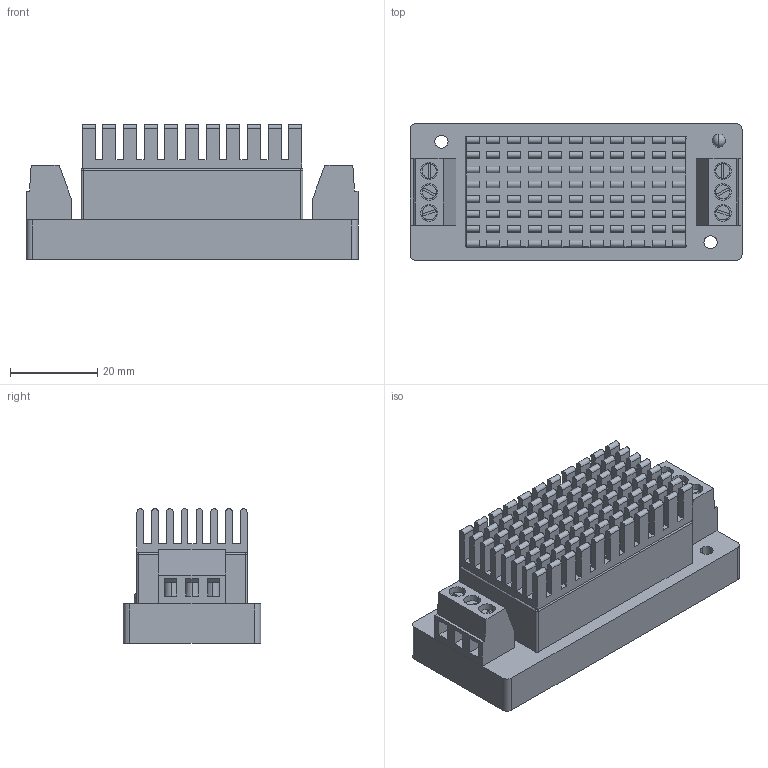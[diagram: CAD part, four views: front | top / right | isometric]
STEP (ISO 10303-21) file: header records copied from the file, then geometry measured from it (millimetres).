
FILE_DESCRIPTION(/* description */ (''),/* implementation_level */ '2;1');
FILE_NAME(/* name */ 'FD60-XXSXXB3R2(TH).stp',/* time_stamp */ '2025-09-09T10:34:19+08:00',/* author */ (''),/* organization */ (''),/* preprocessor_version */ 'ST-DEVELOPER v16',/* originating_system */ 'SIEMENS PLM Software NX 10.0',/* authorisation */ '123');
FILE_SCHEMA (('AUTOMOTIVE_DESIGN { 1 0 10303 214 3 1 1 1 }'));
Length unit declared in the file: millimetre
Products named in the file (1): admi9E78CA83aq3r
Bounding box: 76 x 31.5 x 30.8 mm (x, y, z)
Volume: 45186.5 mm3; surface area: 23902.3 mm2
Topology: 17 solids, 17 shells, 621 faces, 1570 edges, 1060 vertices
Faces by surface type: plane 461, cylinder 148, sphere 12
Full cylindrical faces by diameter (mm): 1 x12
Entity records: 19442 total; most frequent: CARTESIAN_POINT 3206, DIRECTION 3110, ORIENTED_EDGE 3052, EDGE_CURVE 1526, LINE 1174, VECTOR 1174, VERTEX_POINT 1009, AXIS2_PLACEMENT_3D 968
